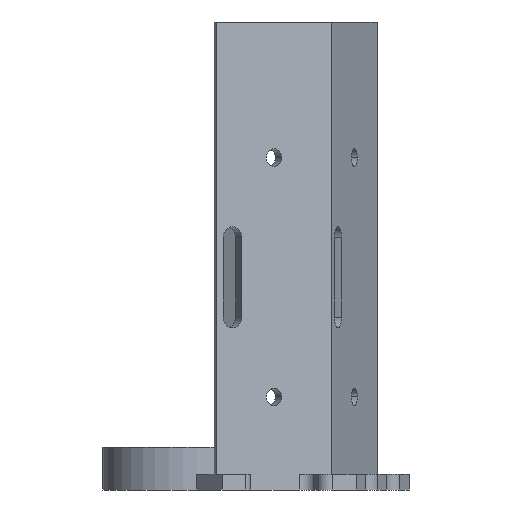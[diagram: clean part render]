
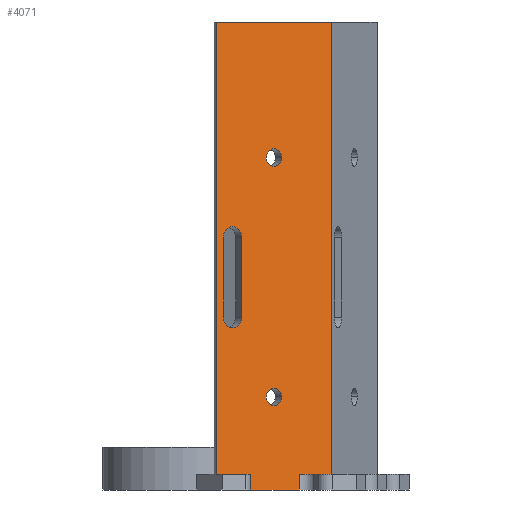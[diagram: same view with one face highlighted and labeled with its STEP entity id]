
A CAD part, front view. The second image highlights one B-rep face of the part: STEP entity #4071.
In plain terms, the highlighted planar face has unit normal (0.5, -0.866, 0).
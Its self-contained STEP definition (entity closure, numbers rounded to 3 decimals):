
#8 = DIRECTION ( 'NONE',  ( 0., 0., 1. ) ) ;
#14 = VERTEX_POINT ( 'NONE', #2776 ) ;
#20 = CARTESIAN_POINT ( 'NONE',  ( 17.172, -29.742, 14.5 ) ) ;
#36 = DIRECTION ( 'NONE',  ( 0.866, 0.5, 0. ) ) ;
#87 = EDGE_LOOP ( 'NONE', ( #908, #4646, #1314, #2927 ) ) ;
#111 = EDGE_CURVE ( 'NONE', #1614, #2966, #2132, .T. ) ;
#115 = VERTEX_POINT ( 'NONE', #2097 ) ;
#144 = EDGE_LOOP ( 'NONE', ( #3730, #568, #4479, #811, #257, #1059, #299, #3723 ) ) ;
#193 = DIRECTION ( 'NONE',  ( -0.5, 0.866, 0. ) ) ;
#255 = CARTESIAN_POINT ( 'NONE',  ( 9.378, -34.242, 44.5 ) ) ;
#257 = ORIENTED_EDGE ( 'NONE', *, *, #4319, .T. ) ;
#299 = ORIENTED_EDGE ( 'NONE', *, *, #532, .F. ) ;
#309 = CARTESIAN_POINT ( 'NONE',  ( 21.935, -26.992, -3. ) ) ;
#388 = CARTESIAN_POINT ( 'NONE',  ( 17.172, -29.742, 59.5 ) ) ;
#392 = CARTESIAN_POINT ( 'NONE',  ( 15.743, -30.567, 59.5 ) ) ;
#398 = EDGE_CURVE ( 'NONE', #4258, #2171, #3221, .T. ) ;
#413 = ORIENTED_EDGE ( 'NONE', *, *, #2425, .F. ) ;
#491 = EDGE_CURVE ( 'NONE', #1977, #4583, #4428, .T. ) ;
#518 = FACE_BOUND ( 'NONE', #87, .T. ) ;
#532 = EDGE_CURVE ( 'NONE', #949, #14, #1069, .T. ) ;
#541 = CARTESIAN_POINT ( 'NONE',  ( 6.346, -35.992, 85. ) ) ;
#560 = CARTESIAN_POINT ( 'NONE',  ( 6.346, -35.992, 0. ) ) ;
#568 = ORIENTED_EDGE ( 'NONE', *, *, #3529, .T. ) ;
#575 = DIRECTION ( 'NONE',  ( 0.866, 0.5, 0. ) ) ;
#590 = AXIS2_PLACEMENT_3D ( 'NONE', #4440, #4054, #1730 ) ;
#600 = EDGE_CURVE ( 'NONE', #2455, #651, #830, .T. ) ;
#644 = CARTESIAN_POINT ( 'NONE',  ( 21.935, -26.992, 0. ) ) ;
#645 = DIRECTION ( 'NONE',  ( 0.866, 0.5, 0. ) ) ;
#651 = VERTEX_POINT ( 'NONE', #4631 ) ;
#717 = DIRECTION ( 'NONE',  ( 0.866, 0.5, 0. ) ) ;
#772 = VECTOR ( 'NONE', #4298, 1000. ) ;
#786 = CARTESIAN_POINT ( 'NONE',  ( 11.11, -33.242, 29.5 ) ) ;
#803 = DIRECTION ( 'NONE',  ( 0.866, 0.5, 0. ) ) ;
#811 = ORIENTED_EDGE ( 'NONE', *, *, #398, .T. ) ;
#830 = CIRCLE ( 'NONE', #2963, 1.65 ) ;
#884 = DIRECTION ( 'NONE',  ( 0., 0., 1. ) ) ;
#892 = EDGE_CURVE ( 'NONE', #949, #3635, #1121, .T. ) ;
#894 = VERTEX_POINT ( 'NONE', #2256 ) ;
#900 = CARTESIAN_POINT ( 'NONE',  ( 12.409, -32.492, -3. ) ) ;
#908 = ORIENTED_EDGE ( 'NONE', *, *, #2599, .F. ) ;
#949 = VERTEX_POINT ( 'NONE', #541 ) ;
#1022 = AXIS2_PLACEMENT_3D ( 'NONE', #3250, #193, #2080 ) ;
#1059 = ORIENTED_EDGE ( 'NONE', *, *, #4559, .F. ) ;
#1069 = LINE ( 'NONE', #2930, #1661 ) ;
#1092 = LINE ( 'NONE', #560, #4265 ) ;
#1121 = LINE ( 'NONE', #3153, #772 ) ;
#1231 = DIRECTION ( 'NONE',  ( 0.5, -0.866, 0. ) ) ;
#1254 = CARTESIAN_POINT ( 'NONE',  ( 7.645, -35.242, 29.5 ) ) ;
#1273 = AXIS2_PLACEMENT_3D ( 'NONE', #20, #4224, #803 ) ;
#1314 = ORIENTED_EDGE ( 'NONE', *, *, #4395, .F. ) ;
#1315 = DIRECTION ( 'NONE',  ( 0., 0., -1. ) ) ;
#1408 = VERTEX_POINT ( 'NONE', #2292 ) ;
#1479 = CARTESIAN_POINT ( 'NONE',  ( 7.645, -35.242, 44.5 ) ) ;
#1509 = LINE ( 'NONE', #3983, #3354 ) ;
#1547 = FACE_BOUND ( 'NONE', #3332, .T. ) ;
#1614 = VERTEX_POINT ( 'NONE', #3255 ) ;
#1661 = VECTOR ( 'NONE', #645, 1000. ) ;
#1681 = DIRECTION ( 'NONE',  ( -0.866, -0.5, 0. ) ) ;
#1730 = DIRECTION ( 'NONE',  ( 0.866, 0.5, 0. ) ) ;
#1786 = EDGE_CURVE ( 'NONE', #3635, #1408, #1092, .T. ) ;
#1877 = CARTESIAN_POINT ( 'NONE',  ( 6.346, -35.992, 0. ) ) ;
#1900 = ORIENTED_EDGE ( 'NONE', *, *, #2276, .F. ) ;
#1966 = DIRECTION ( 'NONE',  ( 0.866, 0.5, 0. ) ) ;
#1977 = VERTEX_POINT ( 'NONE', #1254 ) ;
#2016 = VECTOR ( 'NONE', #1315, 1000. ) ;
#2052 = VERTEX_POINT ( 'NONE', #900 ) ;
#2070 = LINE ( 'NONE', #3412, #2241 ) ;
#2080 = DIRECTION ( 'NONE',  ( -0.866, -0.5, 0. ) ) ;
#2097 = CARTESIAN_POINT ( 'NONE',  ( 27.997, -23.492, 0. ) ) ;
#2108 = EDGE_CURVE ( 'NONE', #4258, #2052, #1509, .T. ) ;
#2132 = CIRCLE ( 'NONE', #3802, 2. ) ;
#2171 = VERTEX_POINT ( 'NONE', #644 ) ;
#2194 = VECTOR ( 'NONE', #884, 1000. ) ;
#2241 = VECTOR ( 'NONE', #8, 1000. ) ;
#2256 = CARTESIAN_POINT ( 'NONE',  ( 15.743, -30.567, 14.5 ) ) ;
#2276 = EDGE_CURVE ( 'NONE', #894, #3429, #2378, .T. ) ;
#2292 = CARTESIAN_POINT ( 'NONE',  ( 12.409, -32.492, 0. ) ) ;
#2378 = CIRCLE ( 'NONE', #3829, 1.65 ) ;
#2425 = EDGE_CURVE ( 'NONE', #3429, #894, #3599, .T. ) ;
#2455 = VERTEX_POINT ( 'NONE', #392 ) ;
#2599 = EDGE_CURVE ( 'NONE', #2966, #1977, #3056, .T. ) ;
#2625 = DIRECTION ( 'NONE',  ( 0., 0., -1. ) ) ;
#2776 = CARTESIAN_POINT ( 'NONE',  ( 27.997, -23.492, 85. ) ) ;
#2801 = AXIS2_PLACEMENT_3D ( 'NONE', #4277, #1231, #36 ) ;
#2887 = PLANE ( 'NONE',  #1022 ) ;
#2892 = EDGE_LOOP ( 'NONE', ( #3205, #3902 ) ) ;
#2913 = FACE_BOUND ( 'NONE', #2892, .T. ) ;
#2927 = ORIENTED_EDGE ( 'NONE', *, *, #491, .F. ) ;
#2930 = CARTESIAN_POINT ( 'NONE',  ( 6.346, -35.992, 85. ) ) ;
#2963 = AXIS2_PLACEMENT_3D ( 'NONE', #388, #3077, #1966 ) ;
#2966 = VERTEX_POINT ( 'NONE', #1479 ) ;
#3056 = LINE ( 'NONE', #4332, #3777 ) ;
#3077 = DIRECTION ( 'NONE',  ( 0.5, -0.866, 0. ) ) ;
#3153 = CARTESIAN_POINT ( 'NONE',  ( 6.346, -35.992, 85. ) ) ;
#3166 = LINE ( 'NONE', #3215, #2016 ) ;
#3177 = CARTESIAN_POINT ( 'NONE',  ( 21.935, -26.992, 0. ) ) ;
#3205 = ORIENTED_EDGE ( 'NONE', *, *, #4597, .F. ) ;
#3215 = CARTESIAN_POINT ( 'NONE',  ( 12.409, -32.492, -3. ) ) ;
#3221 = LINE ( 'NONE', #3177, #2194 ) ;
#3250 = CARTESIAN_POINT ( 'NONE',  ( 6.346, -35.992, 85. ) ) ;
#3255 = CARTESIAN_POINT ( 'NONE',  ( 11.11, -33.242, 44.5 ) ) ;
#3280 = LINE ( 'NONE', #1877, #4789 ) ;
#3332 = EDGE_LOOP ( 'NONE', ( #413, #1900 ) ) ;
#3352 = DIRECTION ( 'NONE',  ( 0.5, -0.866, 0. ) ) ;
#3354 = VECTOR ( 'NONE', #1681, 1000. ) ;
#3375 = DIRECTION ( 'NONE',  ( 0.5, -0.866, 0. ) ) ;
#3412 = CARTESIAN_POINT ( 'NONE',  ( 11.11, -33.242, 44.5 ) ) ;
#3429 = VERTEX_POINT ( 'NONE', #3880 ) ;
#3529 = EDGE_CURVE ( 'NONE', #1408, #2052, #3166, .T. ) ;
#3599 = CIRCLE ( 'NONE', #1273, 1.65 ) ;
#3635 = VERTEX_POINT ( 'NONE', #4823 ) ;
#3723 = ORIENTED_EDGE ( 'NONE', *, *, #892, .T. ) ;
#3725 = CARTESIAN_POINT ( 'NONE',  ( 17.172, -29.742, 14.5 ) ) ;
#3730 = ORIENTED_EDGE ( 'NONE', *, *, #1786, .T. ) ;
#3777 = VECTOR ( 'NONE', #4684, 1000. ) ;
#3802 = AXIS2_PLACEMENT_3D ( 'NONE', #255, #3375, #4476 ) ;
#3829 = AXIS2_PLACEMENT_3D ( 'NONE', #3725, #3352, #717 ) ;
#3844 = DIRECTION ( 'NONE',  ( 0.866, 0.5, 0. ) ) ;
#3880 = CARTESIAN_POINT ( 'NONE',  ( 18.601, -28.917, 14.5 ) ) ;
#3902 = ORIENTED_EDGE ( 'NONE', *, *, #600, .F. ) ;
#3929 = VECTOR ( 'NONE', #2625, 1000. ) ;
#3983 = CARTESIAN_POINT ( 'NONE',  ( 10.677, -33.492, -3. ) ) ;
#4054 = DIRECTION ( 'NONE',  ( 0.5, -0.866, 0. ) ) ;
#4071 = ADVANCED_FACE ( 'NONE', ( #518, #1547, #2913, #4549 ), #2887, .F. ) ;
#4224 = DIRECTION ( 'NONE',  ( 0.5, -0.866, 0. ) ) ;
#4258 = VERTEX_POINT ( 'NONE', #309 ) ;
#4265 = VECTOR ( 'NONE', #575, 1000. ) ;
#4277 = CARTESIAN_POINT ( 'NONE',  ( 17.172, -29.742, 59.5 ) ) ;
#4294 = CIRCLE ( 'NONE', #2801, 1.65 ) ;
#4298 = DIRECTION ( 'NONE',  ( 0., 0., -1. ) ) ;
#4319 = EDGE_CURVE ( 'NONE', #2171, #115, #3280, .T. ) ;
#4332 = CARTESIAN_POINT ( 'NONE',  ( 7.645, -35.242, 44.5 ) ) ;
#4395 = EDGE_CURVE ( 'NONE', #4583, #1614, #2070, .T. ) ;
#4428 = CIRCLE ( 'NONE', #590, 2. ) ;
#4440 = CARTESIAN_POINT ( 'NONE',  ( 9.378, -34.242, 29.5 ) ) ;
#4476 = DIRECTION ( 'NONE',  ( 0.866, 0.5, 0. ) ) ;
#4479 = ORIENTED_EDGE ( 'NONE', *, *, #2108, .F. ) ;
#4549 = FACE_OUTER_BOUND ( 'NONE', #144, .T. ) ;
#4559 = EDGE_CURVE ( 'NONE', #14, #115, #4968, .T. ) ;
#4583 = VERTEX_POINT ( 'NONE', #786 ) ;
#4597 = EDGE_CURVE ( 'NONE', #651, #2455, #4294, .T. ) ;
#4631 = CARTESIAN_POINT ( 'NONE',  ( 18.601, -28.917, 59.5 ) ) ;
#4646 = ORIENTED_EDGE ( 'NONE', *, *, #111, .F. ) ;
#4684 = DIRECTION ( 'NONE',  ( 0., 0., -1. ) ) ;
#4789 = VECTOR ( 'NONE', #3844, 1000. ) ;
#4823 = CARTESIAN_POINT ( 'NONE',  ( 6.346, -35.992, 0. ) ) ;
#4949 = CARTESIAN_POINT ( 'NONE',  ( 27.997, -23.492, 85. ) ) ;
#4968 = LINE ( 'NONE', #4949, #3929 ) ;
